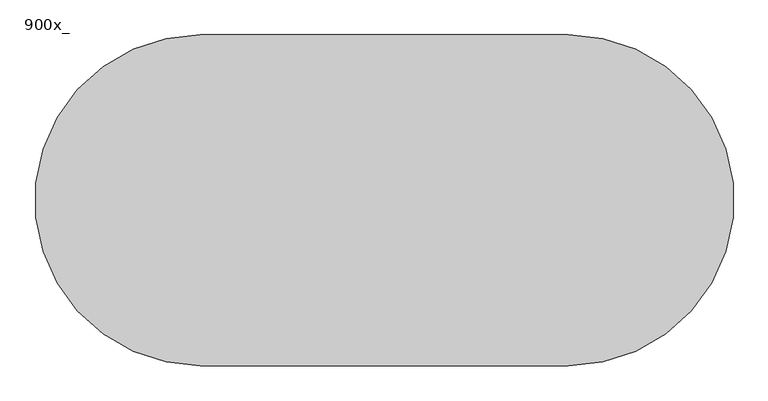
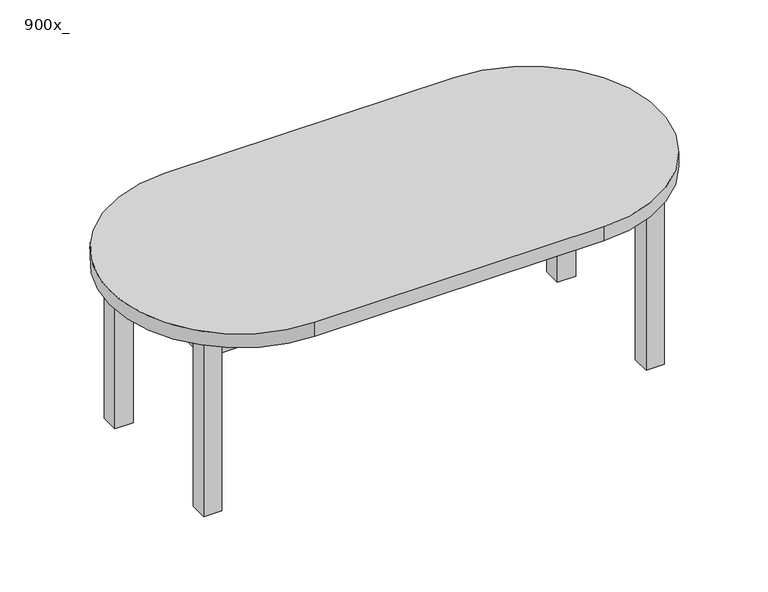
"""IFC4 building model written with IfcOpenShell, lengths in millimetres: furniture geometry, Fu_кухонный стол_овальный_LEG : 900x_."""

from ifc_helpers import new_model, si_unit, point, frame, frame_2d, origin, origin_with_axes, place, context, project, spatial, polyline, circle_curve, trimmed, segment, composite_curve, outline, extrude, source, transform, mapped, element, save


def furniture_900x_fcdd72c2(model_context):
    return source(origin(), model_context, "Body", "SweptSolid", [
        extrude(outline(polyline([(684.1, 259.5), (684.1, 234.1), (-784.1, 234.1), (-784.1, 259.5), (684.1, 259.5)])), frame((0.0, 0.0, 547.6), z_axis=(0.0, 0.0, 1.0), x_axis=(1.0, 0.0, 0.0)), (0.0, 0.0, 1.0), 101.6),
        extrude(outline(polyline([(684.1, -259.5), (-784.1, -259.5), (-784.1, -234.1), (684.1, -234.1), (684.1, -259.5)])), frame((0.0, 0.0, 547.6), z_axis=(0.0, 0.0, 1.0), x_axis=(1.0, 0.0, 0.0)), (0.0, 0.0, 1.0), 101.6),
        extrude(outline(polyline([(-796.8, -234.1), (-822.2, -234.1), (-822.2, 234.1), (-796.8, 234.1), (-796.8, -234.1)])), frame((0.0, 0.0, 547.6), z_axis=(0.0, 0.0, 1.0), x_axis=(1.0, 0.0, 0.0)), (0.0, 0.0, 1.0), 101.6),
        extrude(outline(polyline([(696.8, -234.1), (696.8, 234.1), (722.2, 234.1), (722.2, -234.1), (696.8, -234.1)])), frame((0.0, 0.0, 547.6), z_axis=(0.0, 0.0, 1.0), x_axis=(1.0, 0.0, 0.0)), (0.0, 0.0, 1.0), 101.6),
        extrude(outline(polyline([(-784.1, 297.6), (-784.1, 234.1), (-847.6, 234.1), (-847.6, 297.6), (-784.1, 297.6)])), origin_with_axes(), (0.0, 0.0, 1.0), 649.2),
        extrude(outline(polyline([(684.1, 297.6), (747.6, 297.6), (747.6, 234.1), (684.1, 234.1), (684.1, 297.6)])), origin_with_axes(), (0.0, 0.0, 1.0), 649.2),
        extrude(outline(polyline([(-784.1, -297.6), (-847.6, -297.6), (-847.6, -234.1), (-784.1, -234.1), (-784.1, -297.6)])), origin_with_axes(), (0.0, 0.0, 1.0), 649.2),
        extrude(outline(polyline([(684.1, -297.6), (684.1, -234.1), (747.6, -234.1), (747.6, -297.6), (684.1, -297.6)])), origin_with_axes(), (0.0, 0.0, 1.0), 649.2),
        extrude(outline(composite_curve([segment(trimmed(circle_curve(frame_2d((-550.0, 0.0)), 450.0), [point((-550.0, -450.0))], [point((-550.0, 450.0))], False, "CARTESIAN"), True, "CONTINUOUS"), segment(polyline([(-550.0, 450.0), (450.0, 450.0)]), True, "CONTINUOUS"), segment(trimmed(circle_curve(frame_2d((450.0, 0.0)), 450.0), [point((450.0, 450.0))], [point((450.0, -450.0))], False, "CARTESIAN"), True, "CONTINUOUS"), segment(polyline([(450.0, -450.0), (-550.0, -450.0)]), True, "CONTINUOUS")], self_intersect=False)), frame((0.0, 0.0, 649.2), z_axis=(0.0, 0.0, 1.0), x_axis=(1.0, 0.0, 0.0)), (0.0, 0.0, 1.0), 50.8),
    ])


if __name__ == "__main__":
    model = new_model("IFC4")
    model_context = context("Model", 3, world=origin())
    ifc_project = project(units=[si_unit("LENGTHUNIT", "METRE", prefix="MILLI")], contexts=[model_context])
    site = spatial("IfcSite", under=ifc_project)
    building = spatial("IfcBuilding", under=site)
    placement = place(None, origin())
    furniture_900x_shape = furniture_900x_fcdd72c2(model_context)
    element("IfcFurniture", 1, ObjectType="Fu_кухонный стол_овальный_LEG : 900x_", at=placement, inside=building, context=model_context, shape_type="MappedRepresentation", body=[
        mapped(furniture_900x_shape, transform((0.0, 0.0, 0.0), x_axis=(1.0, 0.0, 0.0), y_axis=(0.0, 1.0, 0.0), z_axis=(0.0, 0.0, 1.0))),
    ])
    save(model, "model.ifc")
